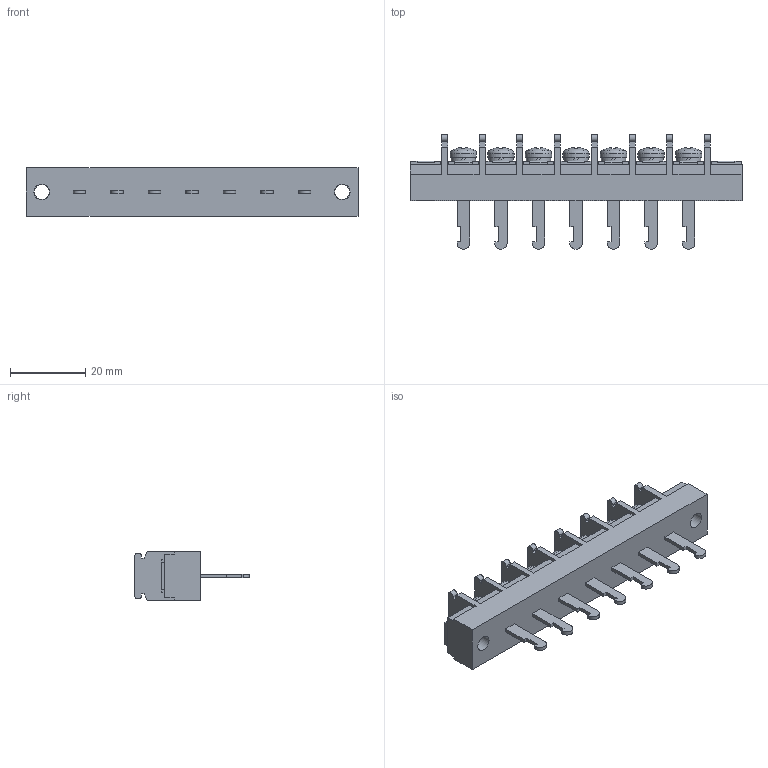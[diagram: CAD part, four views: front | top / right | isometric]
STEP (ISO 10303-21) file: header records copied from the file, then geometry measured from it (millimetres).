
FILE_DESCRIPTION(/* description */ ('Alibre Inc.'),/* implementation_level */ '2;1');
FILE_NAME(/* name */ 'export0',/* time_stamp */ '2015-10-17T19:13:28+09:00',/* author */ (''),/* organization */ (''),/* preprocessor_version */ 'ST-DEVELOPER v14',/* originating_system */ 'Alibre',/* authorisation */ '');
FILE_SCHEMA (('CONFIG_CONTROL_DESIGN'));
Length unit declared in the file: centimetre
Products named in the file (1): ID_1
Bounding box: 88.4 x 30.5 x 13 mm (x, y, z)
Volume: 13129.5 mm3; surface area: 8108.6 mm2
Topology: 1 solids, 17 shells, 909 faces, 2471 edges, 1641 vertices
Faces by surface type: plane 690, bspline 104, cylinder 66, cone 28, torus 14, sphere 7
Full cylindrical faces by diameter (mm): 4 x9, 4.2 x2, 6.5 x7, 7 x7
Entity records: 27612 total; most frequent: CARTESIAN_POINT 6084, ORIENTED_EDGE 4832, DIRECTION 3389, EDGE_CURVE 2416, VECTOR 1810, LINE 1810, VERTEX_POINT 1618, AXIS2_PLACEMENT_3D 1128
